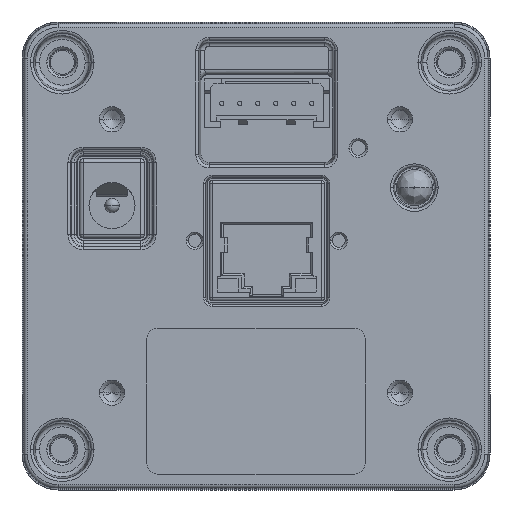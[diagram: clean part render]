
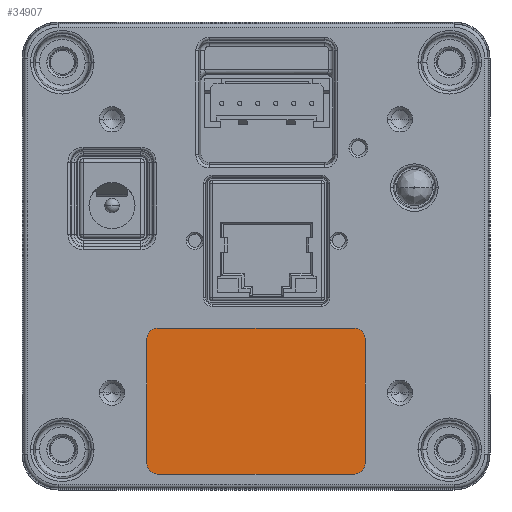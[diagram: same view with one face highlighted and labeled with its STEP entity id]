
A CAD part, front view. The second image highlights one B-rep face of the part: STEP entity #34907.
In plain terms, the highlighted planar face has unit normal (0, -1, 0).
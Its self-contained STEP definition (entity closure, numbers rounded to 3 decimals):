
#20202=CARTESIAN_POINT('',(13.65,-8.,-11.5));
#20203=DIRECTION('',(0.,-1.,0.));
#20204=DIRECTION('',(1.,0.,0.));
#20205=AXIS2_PLACEMENT_3D('',#20202,#20203,#20204);
#20210=DIRECTION('',(0.,0.,1.));
#20211=VECTOR('',#20210,17.3);
#20212=CARTESIAN_POINT('',(15.15,-8.,-28.8));
#20213=LINE('',#20212,#20211);
#20217=CARTESIAN_POINT('',(13.65,-8.,-28.8));
#20218=DIRECTION('',(0.,-1.,0.));
#20219=DIRECTION('',(0.,0.,-1.));
#20220=AXIS2_PLACEMENT_3D('',#20217,#20218,#20219);
#20225=DIRECTION('',(1.,0.,0.));
#20226=VECTOR('',#20225,27.3);
#20227=CARTESIAN_POINT('',(-13.65,-8.,-30.3));
#20228=LINE('',#20227,#20226);
#20232=CARTESIAN_POINT('',(-13.65,-8.,-28.8));
#20233=DIRECTION('',(0.,-1.,0.));
#20234=DIRECTION('',(-1.,0.,0.));
#20235=AXIS2_PLACEMENT_3D('',#20232,#20233,#20234);
#20240=DIRECTION('',(0.,0.,-1.));
#20241=VECTOR('',#20240,17.3);
#20242=CARTESIAN_POINT('',(-15.15,-8.,-11.5));
#20243=LINE('',#20242,#20241);
#20247=CARTESIAN_POINT('',(-13.65,-8.,-11.5));
#20248=DIRECTION('',(0.,-1.,0.));
#20249=DIRECTION('',(0.,0.,1.));
#20250=AXIS2_PLACEMENT_3D('',#20247,#20248,#20249);
#20255=DIRECTION('',(-1.,0.,0.));
#20256=VECTOR('',#20255,27.3);
#20257=CARTESIAN_POINT('',(13.65,-8.,-10.));
#20258=LINE('',#20257,#20256);
#25789=CARTESIAN_POINT('',(15.15,-8.,-11.5));
#25790=CARTESIAN_POINT('',(13.65,-8.,-10.));
#25791=VERTEX_POINT('',#25789);
#25792=VERTEX_POINT('',#25790);
#25797=CARTESIAN_POINT('',(-13.65,-8.,-10.));
#25798=CARTESIAN_POINT('',(-15.15,-8.,-11.5));
#25799=VERTEX_POINT('',#25797);
#25800=VERTEX_POINT('',#25798);
#25805=CARTESIAN_POINT('',(-15.15,-8.,-28.8));
#25806=CARTESIAN_POINT('',(-13.65,-8.,-30.3));
#25807=VERTEX_POINT('',#25805);
#25808=VERTEX_POINT('',#25806);
#25813=CARTESIAN_POINT('',(13.65,-8.,-30.3));
#25814=CARTESIAN_POINT('',(15.15,-8.,-28.8));
#25815=VERTEX_POINT('',#25813);
#25816=VERTEX_POINT('',#25814);
#34886=CARTESIAN_POINT('',(0.,-8.,0.));
#34887=DIRECTION('',(0.,-1.,0.));
#34888=DIRECTION('',(-1.,0.,0.));
#34889=AXIS2_PLACEMENT_3D('',#34886,#34887,#34888);
#34890=PLANE('',#34889);
#34891=ORIENTED_EDGE('',*,*,#34877,.F.);
#34893=ORIENTED_EDGE('',*,*,#34892,.F.);
#34895=ORIENTED_EDGE('',*,*,#34894,.F.);
#34897=ORIENTED_EDGE('',*,*,#34896,.F.);
#34899=ORIENTED_EDGE('',*,*,#34898,.F.);
#34901=ORIENTED_EDGE('',*,*,#34900,.F.);
#34903=ORIENTED_EDGE('',*,*,#34902,.F.);
#34904=ORIENTED_EDGE('',*,*,#34864,.F.);
#34905=EDGE_LOOP('',(#34891,#34893,#34895,#34897,#34899,#34901,#34903,#34904));
#34906=FACE_OUTER_BOUND('',#34905,.F.);
#34907=ADVANCED_FACE('',(#34906),#34890,.T.);
#20206=CIRCLE('',#20205,1.5);
#20221=CIRCLE('',#20220,1.5);
#20236=CIRCLE('',#20235,1.5);
#20251=CIRCLE('',#20250,1.5);
#34864=EDGE_CURVE('',#25792,#25799,#20258,.T.);
#34877=EDGE_CURVE('',#25791,#25792,#20206,.T.);
#34892=EDGE_CURVE('',#25816,#25791,#20213,.T.);
#34894=EDGE_CURVE('',#25815,#25816,#20221,.T.);
#34896=EDGE_CURVE('',#25808,#25815,#20228,.T.);
#34898=EDGE_CURVE('',#25807,#25808,#20236,.T.);
#34900=EDGE_CURVE('',#25800,#25807,#20243,.T.);
#34902=EDGE_CURVE('',#25799,#25800,#20251,.T.);
